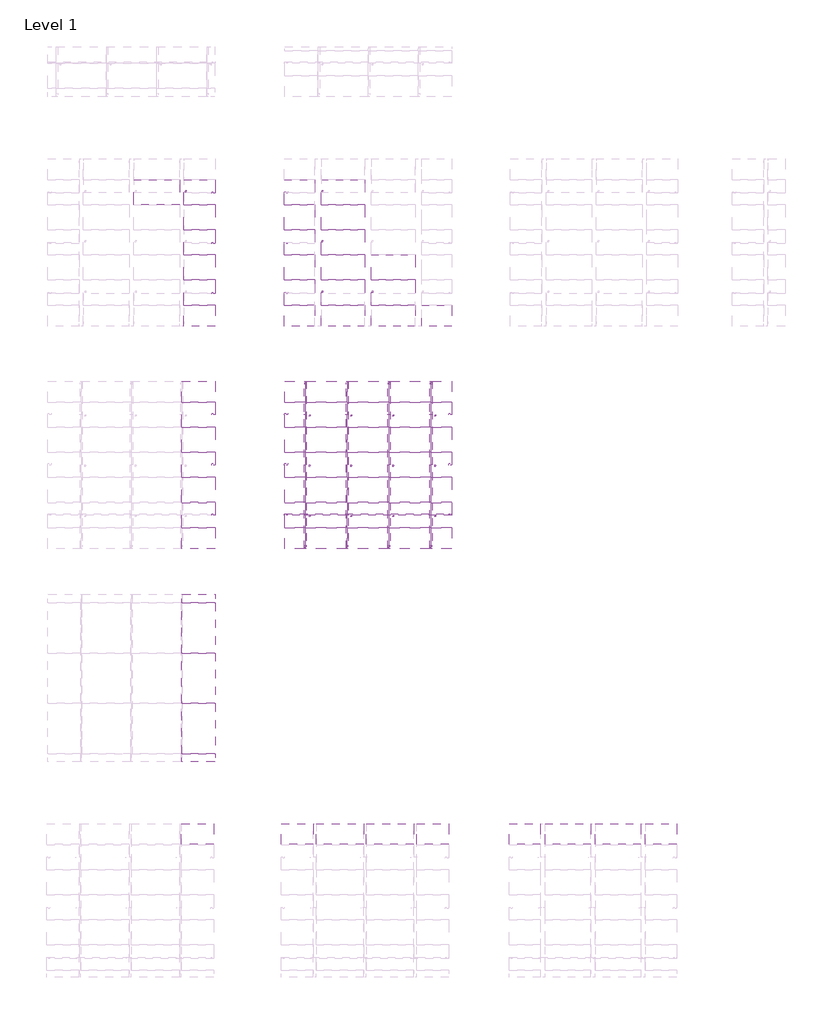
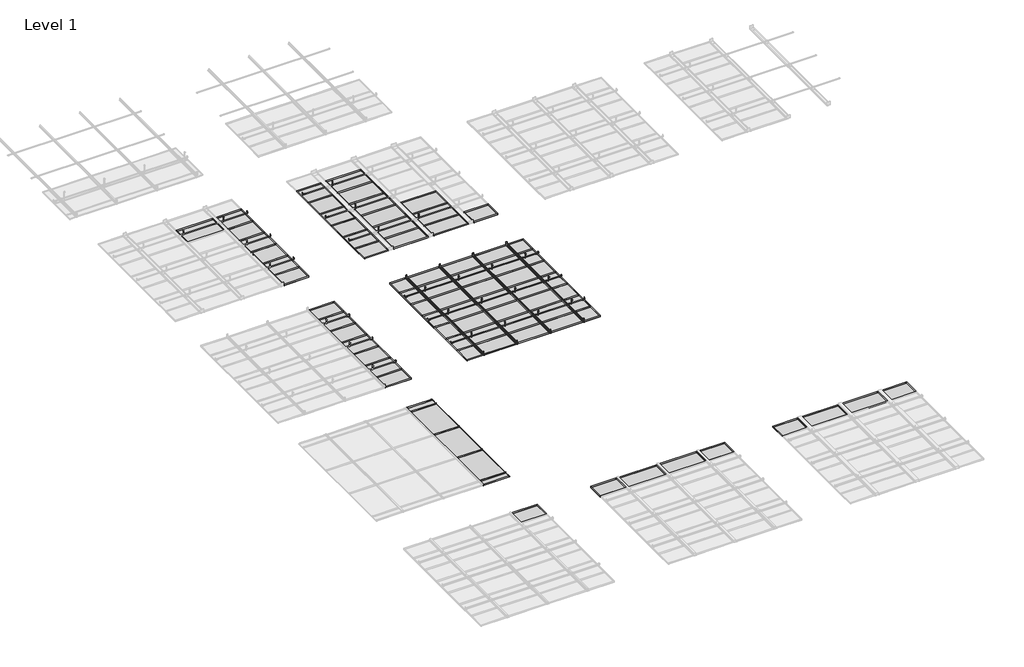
# One storey, part 7 of 32: 136 proxies.
"""IFC4 building model written with IfcOpenShell, lengths in millimetres."""

from ifc_helpers import new_model, si_unit, origin, place, context, project, spatial, transform, mapped, element, save
from components import generic_models_8e043421, generic_models_0902a4dc, generic_models_473d700c, generic_models_65a62dc2, generic_models_7d67d448, generic_models_ce491251, generic_models_44111244, generic_models_586f8c3b, generic_models_67fbcb7b, generic_models_10fcad68, generic_models_1190d022, generic_models_0d7f372a, generic_models_073f8bfa, generic_models_71d81b3c, generic_models_28f6a95c, generic_models_9e18e937, generic_models_9ccf16c1, generic_models_f7f565fa, generic_models_460f2259, generic_models_0c616ac7, generic_models_4f811f19, generic_models_ab47d6b6, generic_models_743fb40c, generic_models_d625d08b, generic_models_32ab59fa, generic_models_bfa937f8, generic_models_bec56f6c

model = new_model("IFC4")

# Units and contexts
model_context = context("Model", 3, world=origin())
ifc_project = project(units=[si_unit("LENGTHUNIT", "METRE", prefix="MILLI")], contexts=[model_context])

# Site, building, storey
site = spatial("IfcSite", under=ifc_project)
building = spatial("IfcBuilding", under=site)
storey = spatial("IfcBuildingStorey", under=building, Name="Level 1", Elevation=0.0)

# Proxies
placement = place(None, origin())
generic_models_shape = generic_models_8e043421(model_context)
element("IfcBuildingElementProxy", 1, Name="durlum_S5-100_panel : durlum_S5-100_panel_wall_length_cut", ObjectType="durlum_S5-100_panel : durlum_S5-100_panel_wall_length_cut", at=placement, inside=storey, context=model_context, shape_type="MappedRepresentation", body=[
    mapped(generic_models_shape, transform((-15764.9236977, -2048.2303881, 3800.0), x_axis=(1.0, 0.0, 0.0), y_axis=(0.0, 1.0, 0.0), z_axis=(0.0, 0.0, 1.0))),
])
element("IfcBuildingElementProxy", 2, Name="durlum_S5-100_panel : durlum_S5-100_panel_wall_length_cut", ObjectType="durlum_S5-100_panel : durlum_S5-100_panel_wall_length_cut", at=placement, inside=storey, context=model_context, shape_type="MappedRepresentation", body=[
    mapped(generic_models_shape, transform((-15764.9236977, -1448.2303881, 3800.0), x_axis=(1.0, 0.0, 0.0), y_axis=(0.0, 1.0, 0.0), z_axis=(0.0, 0.0, 1.0))),
])
element("IfcBuildingElementProxy", 3, Name="durlum_S5-100_panel : durlum_S5-100_panel_wall_length_cut", ObjectType="durlum_S5-100_panel : durlum_S5-100_panel_wall_length_cut", at=placement, inside=storey, context=model_context, shape_type="MappedRepresentation", body=[
    mapped(generic_models_shape, transform((-15764.9236977, -848.2303881, 3800.0), x_axis=(1.0, 0.0, 0.0), y_axis=(0.0, 1.0, 0.0), z_axis=(0.0, 0.0, 1.0))),
])
element("IfcBuildingElementProxy", 4, Name="durlum_S5-100_panel : durlum_S5-100_panel_wall_length_cut", ObjectType="durlum_S5-100_panel : durlum_S5-100_panel_wall_length_cut", at=placement, inside=storey, context=model_context, shape_type="MappedRepresentation", body=[
    mapped(generic_models_shape, transform((-15764.9236977, -2648.2303881, 3800.0), x_axis=(1.0, 0.0, 0.0), y_axis=(0.0, 1.0, 0.0), z_axis=(0.0, 0.0, 1.0))),
])
element("IfcBuildingElementProxy", 5, Name="durlum_S5-100_panel : durlum_S5-100_panel_wall_length_cut", ObjectType="durlum_S5-100_panel : durlum_S5-100_panel_wall_length_cut", at=placement, inside=storey, context=model_context, shape_type="MappedRepresentation", body=[
    mapped(generic_models_shape, transform((-15764.9236977, -248.2303881, 3800.0), x_axis=(1.0, 0.0, 0.0), y_axis=(0.0, 1.0, 0.0), z_axis=(0.0, 0.0, 1.0))),
])
generic_models_2_shape = generic_models_0902a4dc(model_context)
element("IfcBuildingElementProxy", 6, Name="durlum_S5-100_panel : durlum_S5-100_panel_wall_corner", ObjectType="durlum_S5-100_panel : durlum_S5-100_panel_wall_corner", at=placement, inside=storey, context=model_context, shape_type="MappedRepresentation", body=[
    mapped(generic_models_2_shape, transform((-15764.9236977, -3198.2303881, 3800.0), x_axis=(1.0, 0.0, 0.0), y_axis=(0.0, 1.0, 0.0), z_axis=(0.0, 0.0, 1.0))),
])
generic_models_3_shape = generic_models_473d700c(model_context)
element("IfcBuildingElementProxy", 7, Name="durlum_S5-100_panel : durlum_S5-100_panel", ObjectType="durlum_S5-100_panel : durlum_S5-100_panel", at=placement, inside=storey, context=model_context, shape_type="MappedRepresentation", body=[
    mapped(generic_models_3_shape, transform((-16790.1736977, -248.2303881, 3800.0), x_axis=(1.0, 0.0, 0.0), y_axis=(0.0, 1.0, 0.0), z_axis=(0.0, 0.0, 1.0))),
])
generic_models_4_shape = generic_models_65a62dc2(model_context)
element("IfcBuildingElementProxy", 8, Name="durlum_S7_panel : durlum_S7_panel_wall_length_cut", ObjectType="durlum_S7_panel : durlum_S7_panel_wall_length_cut", at=placement, inside=storey, context=model_context, shape_type="MappedRepresentation", body=[
    mapped(generic_models_4_shape, transform((-15790.1736977, -7364.8137232, 3800.0), x_axis=(1.0, 0.0, 0.0), y_axis=(0.0, 1.0, 0.0), z_axis=(0.0, 0.0, 1.0))),
])
element("IfcBuildingElementProxy", 9, Name="durlum_S7_panel : durlum_S7_panel_wall_length_cut", ObjectType="durlum_S7_panel : durlum_S7_panel_wall_length_cut", at=placement, inside=storey, context=model_context, shape_type="MappedRepresentation", body=[
    mapped(generic_models_4_shape, transform((-15790.1736977, -6764.8137232, 3800.0), x_axis=(1.0, 0.0, 0.0), y_axis=(0.0, 1.0, 0.0), z_axis=(0.0, 0.0, 1.0))),
])
element("IfcBuildingElementProxy", 10, Name="durlum_S7_panel : durlum_S7_panel_wall_length_cut", ObjectType="durlum_S7_panel : durlum_S7_panel_wall_length_cut", at=placement, inside=storey, context=model_context, shape_type="MappedRepresentation", body=[
    mapped(generic_models_4_shape, transform((-15790.1736977, -6164.8137232, 3800.0), x_axis=(1.0, 0.0, 0.0), y_axis=(0.0, 1.0, 0.0), z_axis=(0.0, 0.0, 1.0))),
])
element("IfcBuildingElementProxy", 11, Name="durlum_S7_panel : durlum_S7_panel_wall_length_cut", ObjectType="durlum_S7_panel : durlum_S7_panel_wall_length_cut", at=placement, inside=storey, context=model_context, shape_type="MappedRepresentation", body=[
    mapped(generic_models_4_shape, transform((-15790.1736977, -7964.8137232, 3800.0), x_axis=(1.0, 0.0, 0.0), y_axis=(0.0, 1.0, 0.0), z_axis=(0.0, 0.0, 1.0))),
])
element("IfcBuildingElementProxy", 12, Name="durlum_S7_panel : durlum_S7_panel_wall_length_cut", ObjectType="durlum_S7_panel : durlum_S7_panel_wall_length_cut", at=placement, inside=storey, context=model_context, shape_type="MappedRepresentation", body=[
    mapped(generic_models_4_shape, transform((-15790.1736977, -5564.8137232, 3800.0), x_axis=(1.0, 0.0, 0.0), y_axis=(0.0, 1.0, 0.0), z_axis=(0.0, 0.0, 1.0))),
])
generic_models_5_shape = generic_models_7d67d448(model_context)
element("IfcBuildingElementProxy", 13, Name="durlum_S7_panel : durlum_S7_panel_wall_corner", ObjectType="durlum_S7_panel : durlum_S7_panel_wall_corner", at=placement, inside=storey, context=model_context, shape_type="MappedRepresentation", body=[
    mapped(generic_models_5_shape, transform((-15790.1736977, -8514.8137232, 3800.0), x_axis=(1.0, 0.0, 0.0), y_axis=(0.0, 1.0, 0.0), z_axis=(0.0, 0.0, 1.0))),
])
element("IfcBuildingElementProxy", 14, Name="durlum_S7_panel : durlum_S7_panel_wall_corner", ObjectType="durlum_S7_panel : durlum_S7_panel_wall_corner", at=placement, inside=storey, context=model_context, shape_type="MappedRepresentation", body=[
    mapped(generic_models_5_shape, transform((-15790.1736977, -5014.8137232, 3800.0), x_axis=(1.0, 0.0, 0.0), y_axis=(0.0, 1.0, 0.0), z_axis=(0.0, 0.0, 1.0))),
])
generic_models_6_shape = generic_models_ce491251(model_context)
element("IfcBuildingElementProxy", 15, Name="durlum_U1300 : durlum_U1300", ObjectType="durlum_U1300 : durlum_U1300", at=placement, inside=storey, context=model_context, shape_type="MappedRepresentation", body=[
    mapped(generic_models_6_shape, transform((-12836.0747393, -1448.2303881, 3149.4124682), x_axis=(-1.0, 0.0, 0.0), y_axis=(0.0, -1.0, 0.0), z_axis=(0.0, 0.0, 1.0))),
])
element("IfcBuildingElementProxy", 16, Name="durlum_U1300 : durlum_U1300", ObjectType="durlum_U1300 : durlum_U1300", at=placement, inside=storey, context=model_context, shape_type="MappedRepresentation", body=[
    mapped(generic_models_6_shape, transform((-12836.0747393, -2648.2303881, 3149.4124682), x_axis=(-1.0, 0.0, 0.0), y_axis=(0.0, -1.0, 0.0), z_axis=(0.0, 0.0, 1.0))),
])
element("IfcBuildingElementProxy", 17, Name="durlum_U1300 : durlum_U1300", ObjectType="durlum_U1300 : durlum_U1300", at=placement, inside=storey, context=model_context, shape_type="MappedRepresentation", body=[
    mapped(generic_models_6_shape, transform((-12836.0747393, -248.2303881, 3149.4124682), x_axis=(-1.0, 0.0, 0.0), y_axis=(0.0, -1.0, 0.0), z_axis=(0.0, 0.0, 1.0))),
])
element("IfcBuildingElementProxy", 18, Name="durlum_U1300 : durlum_U1300", ObjectType="durlum_U1300 : durlum_U1300", at=placement, inside=storey, context=model_context, shape_type="MappedRepresentation", body=[
    mapped(generic_models_6_shape, transform((-16090.1736977, -248.2303881, 3149.4124682), x_axis=(-1.0, 0.0, 0.0), y_axis=(0.0, -1.0, 0.0), z_axis=(0.0, 0.0, 1.0))),
])
element("IfcBuildingElementProxy", 19, Name="durlum_U1300 : durlum_U1300", ObjectType="durlum_U1300 : durlum_U1300", at=placement, inside=storey, context=model_context, shape_type="MappedRepresentation", body=[
    mapped(generic_models_6_shape, transform((-11636.0747393, -2648.2303881, 3149.4124682), x_axis=(-1.0, 0.0, 0.0), y_axis=(0.0, -1.0, 0.0), z_axis=(0.0, 0.0, 1.0))),
])
generic_models_7_shape = generic_models_44111244(model_context)
element("IfcBuildingElementProxy", 20, Name="durlum_U1300 : durlum_U1300", ObjectType="durlum_U1300 : durlum_U1300", at=placement, inside=storey, context=model_context, shape_type="MappedRepresentation", body=[
    mapped(generic_models_7_shape, transform((-13136.0747393, -5564.8137232, 3141.4124682), x_axis=(1.0, 0.0, 0.0), y_axis=(0.0, 1.0, 0.0), z_axis=(0.0, 0.0, 1.0))),
])
element("IfcBuildingElementProxy", 21, Name="durlum_U1300 : durlum_U1300", ObjectType="durlum_U1300 : durlum_U1300", at=placement, inside=storey, context=model_context, shape_type="MappedRepresentation", body=[
    mapped(generic_models_7_shape, transform((-10136.0747393, -5564.8137232, 3141.4124682), x_axis=(1.0, 0.0, 0.0), y_axis=(0.0, 1.0, 0.0), z_axis=(0.0, 0.0, 1.0))),
])
element("IfcBuildingElementProxy", 22, Name="durlum_U1300 : durlum_U1300", ObjectType="durlum_U1300 : durlum_U1300", at=placement, inside=storey, context=model_context, shape_type="MappedRepresentation", body=[
    mapped(generic_models_7_shape, transform((-13136.0747393, -7964.8137232, 3141.4124682), x_axis=(1.0, 0.0, 0.0), y_axis=(0.0, 1.0, 0.0), z_axis=(0.0, 0.0, 1.0))),
])
element("IfcBuildingElementProxy", 23, Name="durlum_U1300 : durlum_U1300", ObjectType="durlum_U1300 : durlum_U1300", at=placement, inside=storey, context=model_context, shape_type="MappedRepresentation", body=[
    mapped(generic_models_7_shape, transform((-10136.0747393, -7964.8137232, 3141.4124682), x_axis=(1.0, 0.0, 0.0), y_axis=(0.0, 1.0, 0.0), z_axis=(0.0, 0.0, 1.0))),
])
element("IfcBuildingElementProxy", 24, Name="durlum_U1300 : durlum_U1300", ObjectType="durlum_U1300 : durlum_U1300", at=placement, inside=storey, context=model_context, shape_type="MappedRepresentation", body=[
    mapped(generic_models_7_shape, transform((-13136.0747393, -6764.8137232, 3141.4124682), x_axis=(1.0, 0.0, 0.0), y_axis=(0.0, 1.0, 0.0), z_axis=(0.0, 0.0, 1.0))),
])
element("IfcBuildingElementProxy", 25, Name="durlum_U1300 : durlum_U1300", ObjectType="durlum_U1300 : durlum_U1300", at=placement, inside=storey, context=model_context, shape_type="MappedRepresentation", body=[
    mapped(generic_models_7_shape, transform((-10136.0747393, -6764.8137232, 3141.4124682), x_axis=(1.0, 0.0, 0.0), y_axis=(0.0, 1.0, 0.0), z_axis=(0.0, 0.0, 1.0))),
])
element("IfcBuildingElementProxy", 26, Name="durlum_U1300 : durlum_U1300", ObjectType="durlum_U1300 : durlum_U1300", at=placement, inside=storey, context=model_context, shape_type="MappedRepresentation", body=[
    mapped(generic_models_7_shape, transform((-12136.0747393, -5564.8137232, 3141.4124682), x_axis=(1.0, 0.0, 0.0), y_axis=(0.0, 1.0, 0.0), z_axis=(0.0, 0.0, 1.0))),
])
element("IfcBuildingElementProxy", 27, Name="durlum_U1300 : durlum_U1300", ObjectType="durlum_U1300 : durlum_U1300", at=placement, inside=storey, context=model_context, shape_type="MappedRepresentation", body=[
    mapped(generic_models_7_shape, transform((-12136.0747393, -7964.8137232, 3141.4124682), x_axis=(1.0, 0.0, 0.0), y_axis=(0.0, 1.0, 0.0), z_axis=(0.0, 0.0, 1.0))),
])
element("IfcBuildingElementProxy", 28, Name="durlum_U1300 : durlum_U1300", ObjectType="durlum_U1300 : durlum_U1300", at=placement, inside=storey, context=model_context, shape_type="MappedRepresentation", body=[
    mapped(generic_models_7_shape, transform((-12136.0747393, -6764.8137232, 3141.4124682), x_axis=(1.0, 0.0, 0.0), y_axis=(0.0, 1.0, 0.0), z_axis=(0.0, 0.0, 1.0))),
])
element("IfcBuildingElementProxy", 29, Name="durlum_U1300 : durlum_U1300", ObjectType="durlum_U1300 : durlum_U1300", at=placement, inside=storey, context=model_context, shape_type="MappedRepresentation", body=[
    mapped(generic_models_7_shape, transform((-11136.0747393, -5564.8137232, 3141.4124682), x_axis=(1.0, 0.0, 0.0), y_axis=(0.0, 1.0, 0.0), z_axis=(0.0, 0.0, 1.0))),
])
element("IfcBuildingElementProxy", 30, Name="durlum_U1300 : durlum_U1300", ObjectType="durlum_U1300 : durlum_U1300", at=placement, inside=storey, context=model_context, shape_type="MappedRepresentation", body=[
    mapped(generic_models_7_shape, transform((-11136.0747393, -7964.8137232, 3141.4124682), x_axis=(1.0, 0.0, 0.0), y_axis=(0.0, 1.0, 0.0), z_axis=(0.0, 0.0, 1.0))),
])
element("IfcBuildingElementProxy", 31, Name="durlum_U1300 : durlum_U1300", ObjectType="durlum_U1300 : durlum_U1300", at=placement, inside=storey, context=model_context, shape_type="MappedRepresentation", body=[
    mapped(generic_models_7_shape, transform((-11136.0747393, -6764.8137232, 3141.4124682), x_axis=(1.0, 0.0, 0.0), y_axis=(0.0, 1.0, 0.0), z_axis=(0.0, 0.0, 1.0))),
])
generic_models_8_shape = generic_models_586f8c3b(model_context)
element("IfcBuildingElementProxy", 32, Name="durlum_S10H_panel : durlum_S10H_panel_wall_length_cut", ObjectType="durlum_S10H_panel : durlum_S10H_panel_wall_length_cut", at=placement, inside=storey, context=model_context, shape_type="MappedRepresentation", body=[
    mapped(generic_models_8_shape, transform((-15790.1736977, -11861.9209574, 3800.0), x_axis=(1.0, 0.0, 0.0), y_axis=(0.0, 1.0, 0.0), z_axis=(0.0, 0.0, 1.0))),
])
element("IfcBuildingElementProxy", 33, Name="durlum_S10H_panel : durlum_S10H_panel_wall_length_cut", ObjectType="durlum_S10H_panel : durlum_S10H_panel_wall_length_cut", at=placement, inside=storey, context=model_context, shape_type="MappedRepresentation", body=[
    mapped(generic_models_8_shape, transform((-15790.1736977, -13061.9209574, 3800.0), x_axis=(1.0, 0.0, 0.0), y_axis=(0.0, 1.0, 0.0), z_axis=(0.0, 0.0, 1.0))),
])
element("IfcBuildingElementProxy", 34, Name="durlum_S10H_panel : durlum_S10H_panel_wall_length_cut", ObjectType="durlum_S10H_panel : durlum_S10H_panel_wall_length_cut", at=placement, inside=storey, context=model_context, shape_type="MappedRepresentation", body=[
    mapped(generic_models_8_shape, transform((-15790.1736977, -10661.9209574, 3800.0), x_axis=(1.0, 0.0, 0.0), y_axis=(0.0, 1.0, 0.0), z_axis=(0.0, 0.0, 1.0))),
])
generic_models_9_shape = generic_models_67fbcb7b(model_context)
element("IfcBuildingElementProxy", 35, Name="durlum_S10H_panel : durlum_S10H_panel_wall_corner", ObjectType="durlum_S10H_panel : durlum_S10H_panel_wall_corner", at=placement, inside=storey, context=model_context, shape_type="MappedRepresentation", body=[
    mapped(generic_models_9_shape, transform((-15790.1736977, -13761.9209574, 3800.0), x_axis=(1.0, 0.0, 0.0), y_axis=(0.0, 1.0, 0.0), z_axis=(0.0, 0.0, 1.0))),
])
element("IfcBuildingElementProxy", 36, Name="durlum_S10H_panel : durlum_S10H_panel_wall_corner", ObjectType="durlum_S10H_panel : durlum_S10H_panel_wall_corner", at=placement, inside=storey, context=model_context, shape_type="MappedRepresentation", body=[
    mapped(generic_models_9_shape, transform((-15790.1736977, -9961.9209574, 3800.0), x_axis=(1.0, 0.0, 0.0), y_axis=(0.0, 1.0, 0.0), z_axis=(0.0, 0.0, 1.0))),
])
generic_models_10_shape = generic_models_10fcad68(model_context)
element("IfcBuildingElementProxy", 37, Name="durlum_S-OM-100_panel : durlum_S-OM-100_panel_wall_width_cut", ObjectType="durlum_S-OM-100_panel : durlum_S-OM-100_panel_wall_width_cut", at=placement, inside=storey, context=model_context, shape_type="MappedRepresentation", body=[
    mapped(generic_models_10_shape, transform((-5765.0747393, -15585.3492254, 3800.0), x_axis=(1.0, 0.0, 0.0), y_axis=(0.0, 1.0, 0.0), z_axis=(0.0, 0.0, 1.0))),
])
element("IfcBuildingElementProxy", 38, Name="durlum_S-OM-100_panel : durlum_S-OM-100_panel_wall_width_cut", ObjectType="durlum_S-OM-100_panel : durlum_S-OM-100_panel_wall_width_cut", at=placement, inside=storey, context=model_context, shape_type="MappedRepresentation", body=[
    mapped(generic_models_10_shape, transform((-6965.0747393, -15585.3492254, 3800.0), x_axis=(1.0, 0.0, 0.0), y_axis=(0.0, 1.0, 0.0), z_axis=(0.0, 0.0, 1.0))),
])
generic_models_11_shape = generic_models_1190d022(model_context)
element("IfcBuildingElementProxy", 39, Name="durlum_S-OM-63 : durlum_S-OM-63_panel_wall_width_cut", ObjectType="durlum_S-OM-63 : durlum_S-OM-63_panel_wall_width_cut", at=placement, inside=storey, context=model_context, shape_type="MappedRepresentation", body=[
    mapped(generic_models_11_shape, transform((-11212.7945168, -15585.3492254, 3800.0), x_axis=(1.0, 0.0, 0.0), y_axis=(0.0, 1.0, 0.0), z_axis=(0.0, 0.0, 1.0))),
])
element("IfcBuildingElementProxy", 40, Name="durlum_S-OM-63 : durlum_S-OM-63_panel_wall_width_cut", ObjectType="durlum_S-OM-63 : durlum_S-OM-63_panel_wall_width_cut", at=placement, inside=storey, context=model_context, shape_type="MappedRepresentation", body=[
    mapped(generic_models_11_shape, transform((-12412.7945168, -15585.3492254, 3800.0), x_axis=(1.0, 0.0, 0.0), y_axis=(0.0, 1.0, 0.0), z_axis=(0.0, 0.0, 1.0))),
])
generic_models_12_shape = generic_models_0d7f372a(model_context)
element("IfcBuildingElementProxy", 41, Name="durlum_S-OM-40 : durlum_S-OM-40_panel_wall_corner", ObjectType="durlum_S-OM-40 : durlum_S-OM-40_panel_wall_corner", at=placement, inside=storey, context=model_context, shape_type="MappedRepresentation", body=[
    mapped(generic_models_12_shape, transform((-15808.6736977, -15585.3492254, 3800.0), x_axis=(1.0, 0.0, 0.0), y_axis=(0.0, 1.0, 0.0), z_axis=(0.0, 0.0, 1.0))),
])
generic_models_13_shape = generic_models_073f8bfa(model_context)
element("IfcBuildingElementProxy", 42, Name="durlum_S-OM-63 : durlum_S-OM-63_panel_wall_corner", ObjectType="durlum_S-OM-63 : durlum_S-OM-63_panel_wall_corner", at=placement, inside=storey, context=model_context, shape_type="MappedRepresentation", body=[
    mapped(generic_models_13_shape, transform((-10196.5195168, -15585.3492254, 3800.0), x_axis=(1.0, 0.0, 0.0), y_axis=(0.0, 1.0, 0.0), z_axis=(0.0, 0.0, 1.0))),
])
element("IfcBuildingElementProxy", 43, Name="durlum_S-OM-63 : durlum_S-OM-63_panel_wall_corner", ObjectType="durlum_S-OM-63 : durlum_S-OM-63_panel_wall_corner", at=placement, inside=storey, context=model_context, shape_type="MappedRepresentation", body=[
    mapped(generic_models_13_shape, transform((-13429.0695168, -15585.3492254, 3800.0), x_axis=(1.0, 0.0, 0.0), y_axis=(0.0, 1.0, 0.0), z_axis=(0.0, 0.0, 1.0))),
])
generic_models_14_shape = generic_models_71d81b3c(model_context)
element("IfcBuildingElementProxy", 44, Name="durlum_S-OM-100_panel : durlum_S-OM-100_panel_wall_corner", ObjectType="durlum_S-OM-100_panel : durlum_S-OM-100_panel_wall_corner", at=placement, inside=storey, context=model_context, shape_type="MappedRepresentation", body=[
    mapped(generic_models_14_shape, transform((-4737.5747393, -15585.3492254, 3800.0), x_axis=(1.0, 0.0, 0.0), y_axis=(0.0, 1.0, 0.0), z_axis=(0.0, 0.0, 1.0))),
])
element("IfcBuildingElementProxy", 45, Name="durlum_S-OM-100_panel : durlum_S-OM-100_panel_wall_corner", ObjectType="durlum_S-OM-100_panel : durlum_S-OM-100_panel_wall_corner", at=placement, inside=storey, context=model_context, shape_type="MappedRepresentation", body=[
    mapped(generic_models_14_shape, transform((-7992.5747393, -15585.3492254, 3800.0), x_axis=(1.0, 0.0, 0.0), y_axis=(0.0, 1.0, 0.0), z_axis=(0.0, 0.0, 1.0))),
])
generic_models_15_shape = generic_models_28f6a95c(model_context)
element("IfcBuildingElementProxy", 46, Name="durlum_U1042 : durlum_U1042", ObjectType="durlum_U1042 : durlum_U1042", at=placement, inside=storey, context=model_context, shape_type="MappedRepresentation", body=[
    mapped(generic_models_15_shape, transform((-13736.0747393, -263.2303881, 3906.0), x_axis=(0.0, -1.0, 0.0), y_axis=(1.0, 0.0, 0.0), z_axis=(0.0, 0.0, 1.0))),
])
element("IfcBuildingElementProxy", 47, Name="durlum_U1042 : durlum_U1042", ObjectType="durlum_U1042 : durlum_U1042", at=placement, inside=storey, context=model_context, shape_type="MappedRepresentation", body=[
    mapped(generic_models_15_shape, transform((-13736.0747393, -1463.2303881, 3906.0), x_axis=(0.0, -1.0, 0.0), y_axis=(1.0, 0.0, 0.0), z_axis=(0.0, 0.0, 1.0))),
])
element("IfcBuildingElementProxy", 48, Name="durlum_U1042 : durlum_U1042", ObjectType="durlum_U1042 : durlum_U1042", at=placement, inside=storey, context=model_context, shape_type="MappedRepresentation", body=[
    mapped(generic_models_15_shape, transform((-13736.0747393, -2663.2303881, 3906.0), x_axis=(0.0, -1.0, 0.0), y_axis=(1.0, 0.0, 0.0), z_axis=(0.0, 0.0, 1.0))),
])
element("IfcBuildingElementProxy", 49, Name="durlum_U1042 : durlum_U1042", ObjectType="durlum_U1042 : durlum_U1042", at=placement, inside=storey, context=model_context, shape_type="MappedRepresentation", body=[
    mapped(generic_models_15_shape, transform((-13736.0747393, -7950.8137232, 3861.0), x_axis=(0.0, -1.0, 0.0), y_axis=(1.0, 0.0, 0.0), z_axis=(0.0, 0.0, 1.0))),
])
element("IfcBuildingElementProxy", 50, Name="durlum_U1042 : durlum_U1042", ObjectType="durlum_U1042 : durlum_U1042", at=placement, inside=storey, context=model_context, shape_type="MappedRepresentation", body=[
    mapped(generic_models_15_shape, transform((-13736.0747393, -6750.8137232, 3861.0), x_axis=(0.0, -1.0, 0.0), y_axis=(1.0, 0.0, 0.0), z_axis=(0.0, 0.0, 1.0))),
])
element("IfcBuildingElementProxy", 51, Name="durlum_U1042 : durlum_U1042", ObjectType="durlum_U1042 : durlum_U1042", at=placement, inside=storey, context=model_context, shape_type="MappedRepresentation", body=[
    mapped(generic_models_15_shape, transform((-13736.0747393, -5550.8137232, 3861.0), x_axis=(0.0, -1.0, 0.0), y_axis=(1.0, 0.0, 0.0), z_axis=(0.0, 0.0, 1.0))),
])
generic_models_16_shape = generic_models_9e18e937(model_context)
element("IfcBuildingElementProxy", 52, Name="durlum_U1042 : durlum_U1042", ObjectType="durlum_U1042 : durlum_U1042", at=placement, inside=storey, context=model_context, shape_type="MappedRepresentation", body=[
    mapped(generic_models_16_shape, transform((-15390.1736977, -1463.2303881, 3906.0), x_axis=(0.0, -1.0, 0.0), y_axis=(1.0, 0.0, 0.0), z_axis=(0.0, 0.0, 1.0))),
])
element("IfcBuildingElementProxy", 53, Name="durlum_U1042 : durlum_U1042", ObjectType="durlum_U1042 : durlum_U1042", at=placement, inside=storey, context=model_context, shape_type="MappedRepresentation", body=[
    mapped(generic_models_16_shape, transform((-15390.1736977, -2663.2303881, 3906.0), x_axis=(0.0, -1.0, 0.0), y_axis=(1.0, 0.0, 0.0), z_axis=(0.0, 0.0, 1.0))),
])
element("IfcBuildingElementProxy", 54, Name="durlum_U1042 : durlum_U1042", ObjectType="durlum_U1042 : durlum_U1042", at=placement, inside=storey, context=model_context, shape_type="MappedRepresentation", body=[
    mapped(generic_models_16_shape, transform((-15390.1736977, -263.2303881, 3906.0), x_axis=(0.0, -1.0, 0.0), y_axis=(1.0, 0.0, 0.0), z_axis=(0.0, 0.0, 1.0))),
])
element("IfcBuildingElementProxy", 55, Name="durlum_U1042 : durlum_U1042", ObjectType="durlum_U1042 : durlum_U1042", at=placement, inside=storey, context=model_context, shape_type="MappedRepresentation", body=[
    mapped(generic_models_16_shape, transform((-15390.1736977, -5550.8137232, 3861.0), x_axis=(0.0, -1.0, 0.0), y_axis=(1.0, 0.0, 0.0), z_axis=(0.0, 0.0, 1.0))),
])
element("IfcBuildingElementProxy", 56, Name="durlum_U1042 : durlum_U1042", ObjectType="durlum_U1042 : durlum_U1042", at=placement, inside=storey, context=model_context, shape_type="MappedRepresentation", body=[
    mapped(generic_models_16_shape, transform((-13236.0747393, -4764.8137232, 3863.0), x_axis=(1.0, 0.0, 0.0), y_axis=(0.0, 1.0, 0.0), z_axis=(0.0, 0.0, 1.0))),
])
element("IfcBuildingElementProxy", 57, Name="durlum_U1042 : durlum_U1042", ObjectType="durlum_U1042 : durlum_U1042", at=placement, inside=storey, context=model_context, shape_type="MappedRepresentation", body=[
    mapped(generic_models_16_shape, transform((-9736.0747393, -5550.8137232, 3861.0), x_axis=(0.0, -1.0, 0.0), y_axis=(1.0, 0.0, 0.0), z_axis=(0.0, 0.0, 1.0))),
])
element("IfcBuildingElementProxy", 58, Name="durlum_U1042 : durlum_U1042", ObjectType="durlum_U1042 : durlum_U1042", at=placement, inside=storey, context=model_context, shape_type="MappedRepresentation", body=[
    mapped(generic_models_16_shape, transform((-10236.0747393, -4764.8137232, 3863.0), x_axis=(1.0, 0.0, 0.0), y_axis=(0.0, 1.0, 0.0), z_axis=(0.0, 0.0, 1.0))),
])
element("IfcBuildingElementProxy", 59, Name="durlum_U1042 : durlum_U1042", ObjectType="durlum_U1042 : durlum_U1042", at=placement, inside=storey, context=model_context, shape_type="MappedRepresentation", body=[
    mapped(generic_models_16_shape, transform((-10236.0747393, -8764.8137232, 3863.0), x_axis=(-1.0, 0.0, 0.0), y_axis=(0.0, -1.0, 0.0), z_axis=(0.0, 0.0, 1.0))),
])
element("IfcBuildingElementProxy", 60, Name="durlum_U1042 : durlum_U1042", ObjectType="durlum_U1042 : durlum_U1042", at=placement, inside=storey, context=model_context, shape_type="MappedRepresentation", body=[
    mapped(generic_models_16_shape, transform((-9736.0747393, -7950.8137232, 3861.0), x_axis=(0.0, -1.0, 0.0), y_axis=(1.0, 0.0, 0.0), z_axis=(0.0, 0.0, 1.0))),
])
element("IfcBuildingElementProxy", 61, Name="durlum_U1042 : durlum_U1042", ObjectType="durlum_U1042 : durlum_U1042", at=placement, inside=storey, context=model_context, shape_type="MappedRepresentation", body=[
    mapped(generic_models_16_shape, transform((-15390.1736977, -7950.8137232, 3861.0), x_axis=(0.0, -1.0, 0.0), y_axis=(1.0, 0.0, 0.0), z_axis=(0.0, 0.0, 1.0))),
])
element("IfcBuildingElementProxy", 62, Name="durlum_U1042 : durlum_U1042", ObjectType="durlum_U1042 : durlum_U1042", at=placement, inside=storey, context=model_context, shape_type="MappedRepresentation", body=[
    mapped(generic_models_16_shape, transform((-15390.1736977, -6750.8137232, 3861.0), x_axis=(0.0, -1.0, 0.0), y_axis=(1.0, 0.0, 0.0), z_axis=(0.0, 0.0, 1.0))),
])
element("IfcBuildingElementProxy", 63, Name="durlum_U1042 : durlum_U1042", ObjectType="durlum_U1042 : durlum_U1042", at=placement, inside=storey, context=model_context, shape_type="MappedRepresentation", body=[
    mapped(generic_models_16_shape, transform((-13236.0747393, -8764.8137232, 3863.0), x_axis=(-1.0, 0.0, 0.0), y_axis=(0.0, -1.0, 0.0), z_axis=(0.0, 0.0, 1.0))),
])
element("IfcBuildingElementProxy", 64, Name="durlum_U1042 : durlum_U1042", ObjectType="durlum_U1042 : durlum_U1042", at=placement, inside=storey, context=model_context, shape_type="MappedRepresentation", body=[
    mapped(generic_models_16_shape, transform((-9736.0747393, -6750.8137232, 3861.0), x_axis=(0.0, -1.0, 0.0), y_axis=(1.0, 0.0, 0.0), z_axis=(0.0, 0.0, 1.0))),
])
element("IfcBuildingElementProxy", 65, Name="durlum_U1042 : durlum_U1042", ObjectType="durlum_U1042 : durlum_U1042", at=placement, inside=storey, context=model_context, shape_type="MappedRepresentation", body=[
    mapped(generic_models_16_shape, transform((-11236.0747393, -4764.8137232, 3863.0), x_axis=(1.0, 0.0, 0.0), y_axis=(0.0, 1.0, 0.0), z_axis=(0.0, 0.0, 1.0))),
])
element("IfcBuildingElementProxy", 66, Name="durlum_U1042 : durlum_U1042", ObjectType="durlum_U1042 : durlum_U1042", at=placement, inside=storey, context=model_context, shape_type="MappedRepresentation", body=[
    mapped(generic_models_16_shape, transform((-11236.0747393, -8764.8137232, 3863.0), x_axis=(-1.0, 0.0, 0.0), y_axis=(0.0, -1.0, 0.0), z_axis=(0.0, 0.0, 1.0))),
])
element("IfcBuildingElementProxy", 67, Name="durlum_U1042 : durlum_U1042", ObjectType="durlum_U1042 : durlum_U1042", at=placement, inside=storey, context=model_context, shape_type="MappedRepresentation", body=[
    mapped(generic_models_16_shape, transform((-12236.0747393, -4764.8137232, 3863.0), x_axis=(1.0, 0.0, 0.0), y_axis=(0.0, 1.0, 0.0), z_axis=(0.0, 0.0, 1.0))),
])
element("IfcBuildingElementProxy", 68, Name="durlum_U1042 : durlum_U1042", ObjectType="durlum_U1042 : durlum_U1042", at=placement, inside=storey, context=model_context, shape_type="MappedRepresentation", body=[
    mapped(generic_models_16_shape, transform((-12236.0747393, -8764.8137232, 3863.0), x_axis=(-1.0, 0.0, 0.0), y_axis=(0.0, -1.0, 0.0), z_axis=(0.0, 0.0, 1.0))),
])
generic_models_17_shape = generic_models_9ccf16c1(model_context)
element("IfcBuildingElementProxy", 69, Name="durlum_U1093V : durlum_U1093V", ObjectType="durlum_U1093V : durlum_U1093V", at=placement, inside=storey, context=model_context, shape_type="MappedRepresentation", body=[
    mapped(generic_models_17_shape, transform((-10236.0747393, -5566.3137232, 3853.0), x_axis=(-1.0, 0.0, 0.0), y_axis=(0.0, -1.0, 0.0), z_axis=(0.0, 0.0, 1.0))),
])
element("IfcBuildingElementProxy", 70, Name="durlum_U1093V : durlum_U1093V", ObjectType="durlum_U1093V : durlum_U1093V", at=placement, inside=storey, context=model_context, shape_type="MappedRepresentation", body=[
    mapped(generic_models_17_shape, transform((-13236.0747393, -7966.3137232, 3853.0), x_axis=(-1.0, 0.0, 0.0), y_axis=(0.0, -1.0, 0.0), z_axis=(0.0, 0.0, 1.0))),
])
element("IfcBuildingElementProxy", 71, Name="durlum_U1093V : durlum_U1093V", ObjectType="durlum_U1093V : durlum_U1093V", at=placement, inside=storey, context=model_context, shape_type="MappedRepresentation", body=[
    mapped(generic_models_17_shape, transform((-13236.0747393, -6766.3137232, 3853.0), x_axis=(-1.0, 0.0, 0.0), y_axis=(0.0, -1.0, 0.0), z_axis=(0.0, 0.0, 1.0))),
])
element("IfcBuildingElementProxy", 72, Name="durlum_U1093V : durlum_U1093V", ObjectType="durlum_U1093V : durlum_U1093V", at=placement, inside=storey, context=model_context, shape_type="MappedRepresentation", body=[
    mapped(generic_models_17_shape, transform((-13236.0747393, -5566.3137232, 3853.0), x_axis=(-1.0, 0.0, 0.0), y_axis=(0.0, -1.0, 0.0), z_axis=(0.0, 0.0, 1.0))),
])
element("IfcBuildingElementProxy", 73, Name="durlum_U1093V : durlum_U1093V", ObjectType="durlum_U1093V : durlum_U1093V", at=placement, inside=storey, context=model_context, shape_type="MappedRepresentation", body=[
    mapped(generic_models_17_shape, transform((-10236.0747393, -7966.3137232, 3853.0), x_axis=(-1.0, 0.0, 0.0), y_axis=(0.0, -1.0, 0.0), z_axis=(0.0, 0.0, 1.0))),
])
element("IfcBuildingElementProxy", 74, Name="durlum_U1093V : durlum_U1093V", ObjectType="durlum_U1093V : durlum_U1093V", at=placement, inside=storey, context=model_context, shape_type="MappedRepresentation", body=[
    mapped(generic_models_17_shape, transform((-10236.0747393, -6766.3137232, 3853.0), x_axis=(-1.0, 0.0, 0.0), y_axis=(0.0, -1.0, 0.0), z_axis=(0.0, 0.0, 1.0))),
])
element("IfcBuildingElementProxy", 75, Name="durlum_U1093V : durlum_U1093V", ObjectType="durlum_U1093V : durlum_U1093V", at=placement, inside=storey, context=model_context, shape_type="MappedRepresentation", body=[
    mapped(generic_models_17_shape, transform((-11236.0747393, -6766.3137232, 3853.0), x_axis=(-1.0, 0.0, 0.0), y_axis=(0.0, -1.0, 0.0), z_axis=(0.0, 0.0, 1.0))),
])
element("IfcBuildingElementProxy", 76, Name="durlum_U1093V : durlum_U1093V", ObjectType="durlum_U1093V : durlum_U1093V", at=placement, inside=storey, context=model_context, shape_type="MappedRepresentation", body=[
    mapped(generic_models_17_shape, transform((-11236.0747393, -5566.3137232, 3853.0), x_axis=(-1.0, 0.0, 0.0), y_axis=(0.0, -1.0, 0.0), z_axis=(0.0, 0.0, 1.0))),
])
element("IfcBuildingElementProxy", 77, Name="durlum_U1093V : durlum_U1093V", ObjectType="durlum_U1093V : durlum_U1093V", at=placement, inside=storey, context=model_context, shape_type="MappedRepresentation", body=[
    mapped(generic_models_17_shape, transform((-11236.0747393, -7966.3137232, 3853.0), x_axis=(-1.0, 0.0, 0.0), y_axis=(0.0, -1.0, 0.0), z_axis=(0.0, 0.0, 1.0))),
])
element("IfcBuildingElementProxy", 78, Name="durlum_U1093V : durlum_U1093V", ObjectType="durlum_U1093V : durlum_U1093V", at=placement, inside=storey, context=model_context, shape_type="MappedRepresentation", body=[
    mapped(generic_models_17_shape, transform((-12236.0747393, -5566.3137232, 3853.0), x_axis=(-1.0, 0.0, 0.0), y_axis=(0.0, -1.0, 0.0), z_axis=(0.0, 0.0, 1.0))),
])
element("IfcBuildingElementProxy", 79, Name="durlum_U1093V : durlum_U1093V", ObjectType="durlum_U1093V : durlum_U1093V", at=placement, inside=storey, context=model_context, shape_type="MappedRepresentation", body=[
    mapped(generic_models_17_shape, transform((-12236.0747393, -7966.3137232, 3853.0), x_axis=(-1.0, 0.0, 0.0), y_axis=(0.0, -1.0, 0.0), z_axis=(0.0, 0.0, 1.0))),
])
element("IfcBuildingElementProxy", 80, Name="durlum_U1093V : durlum_U1093V", ObjectType="durlum_U1093V : durlum_U1093V", at=placement, inside=storey, context=model_context, shape_type="MappedRepresentation", body=[
    mapped(generic_models_17_shape, transform((-12236.0747393, -6766.3137232, 3853.0), x_axis=(-1.0, 0.0, 0.0), y_axis=(0.0, -1.0, 0.0), z_axis=(0.0, 0.0, 1.0))),
])
generic_models_18_shape = generic_models_f7f565fa(model_context)
element("IfcBuildingElementProxy", 81, Name="durlum_S5-100_panel : durlum_S5-100_panel_wall_width_cut", ObjectType="durlum_S5-100_panel : durlum_S5-100_panel_wall_width_cut", at=placement, inside=storey, context=model_context, shape_type="MappedRepresentation", body=[
    mapped(generic_models_18_shape, transform((-11136.0747393, -3198.2303881, 3800.0), x_axis=(1.0, 0.0, 0.0), y_axis=(0.0, 1.0, 0.0), z_axis=(0.0, 0.0, 1.0))),
])
element("IfcBuildingElementProxy", 82, Name="durlum_S5-100_panel : durlum_S5-100_panel_wall_width_cut", ObjectType="durlum_S5-100_panel : durlum_S5-100_panel_wall_width_cut", at=placement, inside=storey, context=model_context, shape_type="MappedRepresentation", body=[
    mapped(generic_models_18_shape, transform((-12336.0747393, -3198.2303881, 3800.0), x_axis=(1.0, 0.0, 0.0), y_axis=(0.0, 1.0, 0.0), z_axis=(0.0, 0.0, 1.0))),
])
generic_models_19_shape = generic_models_460f2259(model_context)
element("IfcBuildingElementProxy", 83, Name="durlum_S5-100_panel : durlum_S5-100_panel", ObjectType="durlum_S5-100_panel : durlum_S5-100_panel", at=placement, inside=storey, context=model_context, shape_type="MappedRepresentation", body=[
    mapped(generic_models_19_shape, transform((-12336.0747393, -1448.2303881, 3800.0), x_axis=(1.0, 0.0, 0.0), y_axis=(0.0, 1.0, 0.0), z_axis=(0.0, 0.0, 1.0))),
])
element("IfcBuildingElementProxy", 84, Name="durlum_S5-100_panel : durlum_S5-100_panel", ObjectType="durlum_S5-100_panel : durlum_S5-100_panel", at=placement, inside=storey, context=model_context, shape_type="MappedRepresentation", body=[
    mapped(generic_models_19_shape, transform((-12336.0747393, -848.2303881, 3800.0), x_axis=(1.0, 0.0, 0.0), y_axis=(0.0, 1.0, 0.0), z_axis=(0.0, 0.0, 1.0))),
])
element("IfcBuildingElementProxy", 85, Name="durlum_S5-100_panel : durlum_S5-100_panel", ObjectType="durlum_S5-100_panel : durlum_S5-100_panel", at=placement, inside=storey, context=model_context, shape_type="MappedRepresentation", body=[
    mapped(generic_models_19_shape, transform((-12336.0747393, -2648.2303881, 3800.0), x_axis=(1.0, 0.0, 0.0), y_axis=(0.0, 1.0, 0.0), z_axis=(0.0, 0.0, 1.0))),
])
element("IfcBuildingElementProxy", 86, Name="durlum_S5-100_panel : durlum_S5-100_panel", ObjectType="durlum_S5-100_panel : durlum_S5-100_panel", at=placement, inside=storey, context=model_context, shape_type="MappedRepresentation", body=[
    mapped(generic_models_19_shape, transform((-11136.0747393, -2648.2303881, 3800.0), x_axis=(1.0, 0.0, 0.0), y_axis=(0.0, 1.0, 0.0), z_axis=(0.0, 0.0, 1.0))),
])
element("IfcBuildingElementProxy", 87, Name="durlum_S5-100_panel : durlum_S5-100_panel", ObjectType="durlum_S5-100_panel : durlum_S5-100_panel", at=placement, inside=storey, context=model_context, shape_type="MappedRepresentation", body=[
    mapped(generic_models_19_shape, transform((-12336.0747393, -248.2303881, 3800.0), x_axis=(1.0, 0.0, 0.0), y_axis=(0.0, 1.0, 0.0), z_axis=(0.0, 0.0, 1.0))),
])
element("IfcBuildingElementProxy", 88, Name="durlum_S5-100_panel : durlum_S5-100_panel", ObjectType="durlum_S5-100_panel : durlum_S5-100_panel", at=placement, inside=storey, context=model_context, shape_type="MappedRepresentation", body=[
    mapped(generic_models_19_shape, transform((-12336.0747393, -2048.2303881, 3800.0), x_axis=(1.0, 0.0, 0.0), y_axis=(0.0, 1.0, 0.0), z_axis=(0.0, 0.0, 1.0))),
])
element("IfcBuildingElementProxy", 89, Name="durlum_S5-100_panel : durlum_S5-100_panel", ObjectType="durlum_S5-100_panel : durlum_S5-100_panel", at=placement, inside=storey, context=model_context, shape_type="MappedRepresentation", body=[
    mapped(generic_models_19_shape, transform((-11136.0747393, -2048.2303881, 3800.0), x_axis=(1.0, 0.0, 0.0), y_axis=(0.0, 1.0, 0.0), z_axis=(0.0, 0.0, 1.0))),
])
generic_models_20_shape = generic_models_0c616ac7(model_context)
element("IfcBuildingElementProxy", 90, Name="durlum_S7KS : durlum_S7KS", ObjectType="durlum_S7KS : durlum_S7KS", at=placement, inside=storey, context=model_context, shape_type="MappedRepresentation", body=[
    mapped(generic_models_20_shape, transform((-11736.0747393, -6764.8137232, 1700.0), x_axis=(1.0, 0.0, 0.0), y_axis=(0.0, 1.0, 0.0), z_axis=(0.0, 0.0, 1.0))),
])
generic_models_21_shape = generic_models_4f811f19(model_context)
element("IfcBuildingElementProxy", 91, Name="durlum_S5-100_panel : durlum_S5-100_panel_wall_length_cut", ObjectType="durlum_S5-100_panel : durlum_S5-100_panel_wall_length_cut", at=placement, inside=storey, context=model_context, shape_type="MappedRepresentation", body=[
    mapped(generic_models_21_shape, transform((-13373.8247393, -2048.2303881, 3800.0), x_axis=(1.0, 0.0, 0.0), y_axis=(0.0, 1.0, 0.0), z_axis=(0.0, 0.0, 1.0))),
])
element("IfcBuildingElementProxy", 92, Name="durlum_S5-100_panel : durlum_S5-100_panel_wall_length_cut", ObjectType="durlum_S5-100_panel : durlum_S5-100_panel_wall_length_cut", at=placement, inside=storey, context=model_context, shape_type="MappedRepresentation", body=[
    mapped(generic_models_21_shape, transform((-13373.8247393, -1448.2303881, 3800.0), x_axis=(1.0, 0.0, 0.0), y_axis=(0.0, 1.0, 0.0), z_axis=(0.0, 0.0, 1.0))),
])
element("IfcBuildingElementProxy", 93, Name="durlum_S5-100_panel : durlum_S5-100_panel_wall_length_cut", ObjectType="durlum_S5-100_panel : durlum_S5-100_panel_wall_length_cut", at=placement, inside=storey, context=model_context, shape_type="MappedRepresentation", body=[
    mapped(generic_models_21_shape, transform((-13373.8247393, -848.2303881, 3800.0), x_axis=(1.0, 0.0, 0.0), y_axis=(0.0, 1.0, 0.0), z_axis=(0.0, 0.0, 1.0))),
])
element("IfcBuildingElementProxy", 94, Name="durlum_S5-100_panel : durlum_S5-100_panel_wall_length_cut", ObjectType="durlum_S5-100_panel : durlum_S5-100_panel_wall_length_cut", at=placement, inside=storey, context=model_context, shape_type="MappedRepresentation", body=[
    mapped(generic_models_21_shape, transform((-13373.8247393, -2648.2303881, 3800.0), x_axis=(1.0, 0.0, 0.0), y_axis=(0.0, 1.0, 0.0), z_axis=(0.0, 0.0, 1.0))),
])
element("IfcBuildingElementProxy", 95, Name="durlum_S5-100_panel : durlum_S5-100_panel_wall_length_cut", ObjectType="durlum_S5-100_panel : durlum_S5-100_panel_wall_length_cut", at=placement, inside=storey, context=model_context, shape_type="MappedRepresentation", body=[
    mapped(generic_models_21_shape, transform((-13373.8247393, -248.2303881, 3800.0), x_axis=(1.0, 0.0, 0.0), y_axis=(0.0, 1.0, 0.0), z_axis=(0.0, 0.0, 1.0))),
])
generic_models_22_shape = generic_models_ab47d6b6(model_context)
element("IfcBuildingElementProxy", 96, Name="durlum_S5-100_panel : durlum_S5-100_panel_wall_corner", ObjectType="durlum_S5-100_panel : durlum_S5-100_panel_wall_corner", at=placement, inside=storey, context=model_context, shape_type="MappedRepresentation", body=[
    mapped(generic_models_22_shape, transform((-13373.8247393, -3198.2303881, 3800.0), x_axis=(1.0, 0.0, 0.0), y_axis=(0.0, 1.0, 0.0), z_axis=(0.0, 0.0, 1.0))),
])
element("IfcBuildingElementProxy", 97, Name="durlum_S5-100_panel : durlum_S5-100_panel_wall_corner", ObjectType="durlum_S5-100_panel : durlum_S5-100_panel_wall_corner", at=placement, inside=storey, context=model_context, shape_type="MappedRepresentation", body=[
    mapped(generic_models_22_shape, transform((-10098.3247393, -3198.2303881, 3800.0), x_axis=(1.0, 0.0, 0.0), y_axis=(0.0, 1.0, 0.0), z_axis=(0.0, 0.0, 1.0))),
])
generic_models_23_shape = generic_models_743fb40c(model_context)
element("IfcBuildingElementProxy", 98, Name="durlum_W2053 : durlum_W2053", ObjectType="durlum_W2053 : durlum_W2053", at=placement, inside=storey, context=model_context, shape_type="MappedRepresentation", body=[
    mapped(generic_models_23_shape, transform((-13236.0747393, -6764.8137232, 3823.0), x_axis=(0.0, -1.0, 0.0), y_axis=(1.0, 0.0, 0.0), z_axis=(0.0, 0.0, 1.0))),
])
element("IfcBuildingElementProxy", 99, Name="durlum_W2053 : durlum_W2053", ObjectType="durlum_W2053 : durlum_W2053", at=placement, inside=storey, context=model_context, shape_type="MappedRepresentation", body=[
    mapped(generic_models_23_shape, transform((-10236.0747393, -6764.8137232, 3823.0), x_axis=(0.0, -1.0, 0.0), y_axis=(1.0, 0.0, 0.0), z_axis=(0.0, 0.0, 1.0))),
])
element("IfcBuildingElementProxy", 100, Name="durlum_W2053 : durlum_W2053", ObjectType="durlum_W2053 : durlum_W2053", at=placement, inside=storey, context=model_context, shape_type="MappedRepresentation", body=[
    mapped(generic_models_23_shape, transform((-11236.0747393, -6764.8137232, 3823.0), x_axis=(0.0, -1.0, 0.0), y_axis=(1.0, 0.0, 0.0), z_axis=(0.0, 0.0, 1.0))),
])
element("IfcBuildingElementProxy", 101, Name="durlum_W2053 : durlum_W2053", ObjectType="durlum_W2053 : durlum_W2053", at=placement, inside=storey, context=model_context, shape_type="MappedRepresentation", body=[
    mapped(generic_models_23_shape, transform((-12236.0747393, -6764.8137232, 3823.0), x_axis=(0.0, -1.0, 0.0), y_axis=(1.0, 0.0, 0.0), z_axis=(0.0, 0.0, 1.0))),
])
generic_models_24_shape = generic_models_d625d08b(model_context)
element("IfcBuildingElementProxy", 102, Name="durlum_S7KS_panel : durlum_S7KS_panel", ObjectType="durlum_S7KS_panel : durlum_S7KS_panel", at=placement, inside=storey, context=model_context, shape_type="MappedRepresentation", body=[
    mapped(generic_models_24_shape, transform((-12736.0747393, -6764.8137232, 3800.0), x_axis=(1.0, 0.0, 0.0), y_axis=(0.0, 1.0, 0.0), z_axis=(0.0, 0.0, 1.0))),
])
element("IfcBuildingElementProxy", 103, Name="durlum_S7KS_panel : durlum_S7KS_panel", ObjectType="durlum_S7KS_panel : durlum_S7KS_panel", at=placement, inside=storey, context=model_context, shape_type="MappedRepresentation", body=[
    mapped(generic_models_24_shape, transform((-10736.0747393, -6764.8137232, 3800.0), x_axis=(1.0, 0.0, 0.0), y_axis=(0.0, 1.0, 0.0), z_axis=(0.0, 0.0, 1.0))),
])
element("IfcBuildingElementProxy", 104, Name="durlum_S7KS_panel : durlum_S7KS_panel", ObjectType="durlum_S7KS_panel : durlum_S7KS_panel", at=placement, inside=storey, context=model_context, shape_type="MappedRepresentation", body=[
    mapped(generic_models_24_shape, transform((-12736.0747393, -6164.8137232, 3800.0), x_axis=(1.0, 0.0, 0.0), y_axis=(0.0, 1.0, 0.0), z_axis=(0.0, 0.0, 1.0))),
])
element("IfcBuildingElementProxy", 105, Name="durlum_S7KS_panel : durlum_S7KS_panel", ObjectType="durlum_S7KS_panel : durlum_S7KS_panel", at=placement, inside=storey, context=model_context, shape_type="MappedRepresentation", body=[
    mapped(generic_models_24_shape, transform((-10736.0747393, -6164.8137232, 3800.0), x_axis=(1.0, 0.0, 0.0), y_axis=(0.0, 1.0, 0.0), z_axis=(0.0, 0.0, 1.0))),
])
element("IfcBuildingElementProxy", 106, Name="durlum_S7KS_panel : durlum_S7KS_panel", ObjectType="durlum_S7KS_panel : durlum_S7KS_panel", at=placement, inside=storey, context=model_context, shape_type="MappedRepresentation", body=[
    mapped(generic_models_24_shape, transform((-12736.0747393, -7964.8137232, 3800.0), x_axis=(1.0, 0.0, 0.0), y_axis=(0.0, 1.0, 0.0), z_axis=(0.0, 0.0, 1.0))),
])
element("IfcBuildingElementProxy", 107, Name="durlum_S7KS_panel : durlum_S7KS_panel", ObjectType="durlum_S7KS_panel : durlum_S7KS_panel", at=placement, inside=storey, context=model_context, shape_type="MappedRepresentation", body=[
    mapped(generic_models_24_shape, transform((-10736.0747393, -7964.8137232, 3800.0), x_axis=(1.0, 0.0, 0.0), y_axis=(0.0, 1.0, 0.0), z_axis=(0.0, 0.0, 1.0))),
])
element("IfcBuildingElementProxy", 108, Name="durlum_S7KS_panel : durlum_S7KS_panel", ObjectType="durlum_S7KS_panel : durlum_S7KS_panel", at=placement, inside=storey, context=model_context, shape_type="MappedRepresentation", body=[
    mapped(generic_models_24_shape, transform((-12736.0747393, -5564.8137232, 3800.0), x_axis=(1.0, 0.0, 0.0), y_axis=(0.0, 1.0, 0.0), z_axis=(0.0, 0.0, 1.0))),
])
element("IfcBuildingElementProxy", 109, Name="durlum_S7KS_panel : durlum_S7KS_panel", ObjectType="durlum_S7KS_panel : durlum_S7KS_panel", at=placement, inside=storey, context=model_context, shape_type="MappedRepresentation", body=[
    mapped(generic_models_24_shape, transform((-10736.0747393, -5564.8137232, 3800.0), x_axis=(1.0, 0.0, 0.0), y_axis=(0.0, 1.0, 0.0), z_axis=(0.0, 0.0, 1.0))),
])
element("IfcBuildingElementProxy", 110, Name="durlum_S7KS_panel : durlum_S7KS_panel", ObjectType="durlum_S7KS_panel : durlum_S7KS_panel", at=placement, inside=storey, context=model_context, shape_type="MappedRepresentation", body=[
    mapped(generic_models_24_shape, transform((-12736.0747393, -7364.8137232, 3800.0), x_axis=(1.0, 0.0, 0.0), y_axis=(0.0, 1.0, 0.0), z_axis=(0.0, 0.0, 1.0))),
])
element("IfcBuildingElementProxy", 111, Name="durlum_S7KS_panel : durlum_S7KS_panel", ObjectType="durlum_S7KS_panel : durlum_S7KS_panel", at=placement, inside=storey, context=model_context, shape_type="MappedRepresentation", body=[
    mapped(generic_models_24_shape, transform((-10736.0747393, -7364.8137232, 3800.0), x_axis=(1.0, 0.0, 0.0), y_axis=(0.0, 1.0, 0.0), z_axis=(0.0, 0.0, 1.0))),
])
element("IfcBuildingElementProxy", 112, Name="durlum_S7KS_panel : durlum_S7KS_panel", ObjectType="durlum_S7KS_panel : durlum_S7KS_panel", at=placement, inside=storey, context=model_context, shape_type="MappedRepresentation", body=[
    mapped(generic_models_24_shape, transform((-11736.0747393, -7364.8137232, 3800.0), x_axis=(1.0, 0.0, 0.0), y_axis=(0.0, 1.0, 0.0), z_axis=(0.0, 0.0, 1.0))),
])
element("IfcBuildingElementProxy", 113, Name="durlum_S7KS_panel : durlum_S7KS_panel", ObjectType="durlum_S7KS_panel : durlum_S7KS_panel", at=placement, inside=storey, context=model_context, shape_type="MappedRepresentation", body=[
    mapped(generic_models_24_shape, transform((-11736.0747393, -6764.8137232, 3800.0), x_axis=(1.0, 0.0, 0.0), y_axis=(0.0, 1.0, 0.0), z_axis=(0.0, 0.0, 1.0))),
])
element("IfcBuildingElementProxy", 114, Name="durlum_S7KS_panel : durlum_S7KS_panel", ObjectType="durlum_S7KS_panel : durlum_S7KS_panel", at=placement, inside=storey, context=model_context, shape_type="MappedRepresentation", body=[
    mapped(generic_models_24_shape, transform((-11736.0747393, -6164.8137232, 3800.0), x_axis=(1.0, 0.0, 0.0), y_axis=(0.0, 1.0, 0.0), z_axis=(0.0, 0.0, 1.0))),
])
element("IfcBuildingElementProxy", 115, Name="durlum_S7KS_panel : durlum_S7KS_panel", ObjectType="durlum_S7KS_panel : durlum_S7KS_panel", at=placement, inside=storey, context=model_context, shape_type="MappedRepresentation", body=[
    mapped(generic_models_24_shape, transform((-11736.0747393, -7964.8137232, 3800.0), x_axis=(1.0, 0.0, 0.0), y_axis=(0.0, 1.0, 0.0), z_axis=(0.0, 0.0, 1.0))),
])
element("IfcBuildingElementProxy", 116, Name="durlum_S7KS_panel : durlum_S7KS_panel", ObjectType="durlum_S7KS_panel : durlum_S7KS_panel", at=placement, inside=storey, context=model_context, shape_type="MappedRepresentation", body=[
    mapped(generic_models_24_shape, transform((-11736.0747393, -5564.8137232, 3800.0), x_axis=(1.0, 0.0, 0.0), y_axis=(0.0, 1.0, 0.0), z_axis=(0.0, 0.0, 1.0))),
])
generic_models_25_shape = generic_models_32ab59fa(model_context)
element("IfcBuildingElementProxy", 117, Name="durlum_S7KS_panel : durlum_S7KS_panel_wall_width_cut", ObjectType="durlum_S7KS_panel : durlum_S7KS_panel_wall_width_cut", at=placement, inside=storey, context=model_context, shape_type="MappedRepresentation", body=[
    mapped(generic_models_25_shape, transform((-10736.0747393, -8514.8137232, 3800.0), x_axis=(1.0, 0.0, 0.0), y_axis=(0.0, 1.0, 0.0), z_axis=(0.0, 0.0, 1.0))),
])
element("IfcBuildingElementProxy", 118, Name="durlum_S7KS_panel : durlum_S7KS_panel_wall_width_cut", ObjectType="durlum_S7KS_panel : durlum_S7KS_panel_wall_width_cut", at=placement, inside=storey, context=model_context, shape_type="MappedRepresentation", body=[
    mapped(generic_models_25_shape, transform((-10736.0747393, -5014.8137232, 3800.0), x_axis=(1.0, 0.0, 0.0), y_axis=(0.0, 1.0, 0.0), z_axis=(0.0, 0.0, 1.0))),
])
element("IfcBuildingElementProxy", 119, Name="durlum_S7KS_panel : durlum_S7KS_panel_wall_width_cut", ObjectType="durlum_S7KS_panel : durlum_S7KS_panel_wall_width_cut", at=placement, inside=storey, context=model_context, shape_type="MappedRepresentation", body=[
    mapped(generic_models_25_shape, transform((-12736.0747393, -8514.8137232, 3800.0), x_axis=(1.0, 0.0, 0.0), y_axis=(0.0, 1.0, 0.0), z_axis=(0.0, 0.0, 1.0))),
])
element("IfcBuildingElementProxy", 120, Name="durlum_S7KS_panel : durlum_S7KS_panel_wall_width_cut", ObjectType="durlum_S7KS_panel : durlum_S7KS_panel_wall_width_cut", at=placement, inside=storey, context=model_context, shape_type="MappedRepresentation", body=[
    mapped(generic_models_25_shape, transform((-12736.0747393, -5014.8137232, 3800.0), x_axis=(1.0, 0.0, 0.0), y_axis=(0.0, 1.0, 0.0), z_axis=(0.0, 0.0, 1.0))),
])
element("IfcBuildingElementProxy", 121, Name="durlum_S7KS_panel : durlum_S7KS_panel_wall_width_cut", ObjectType="durlum_S7KS_panel : durlum_S7KS_panel_wall_width_cut", at=placement, inside=storey, context=model_context, shape_type="MappedRepresentation", body=[
    mapped(generic_models_25_shape, transform((-11736.0747393, -8514.8137232, 3800.0), x_axis=(1.0, 0.0, 0.0), y_axis=(0.0, 1.0, 0.0), z_axis=(0.0, 0.0, 1.0))),
])
element("IfcBuildingElementProxy", 122, Name="durlum_S7KS_panel : durlum_S7KS_panel_wall_width_cut", ObjectType="durlum_S7KS_panel : durlum_S7KS_panel_wall_width_cut", at=placement, inside=storey, context=model_context, shape_type="MappedRepresentation", body=[
    mapped(generic_models_25_shape, transform((-11736.0747393, -5014.8137232, 3800.0), x_axis=(1.0, 0.0, 0.0), y_axis=(0.0, 1.0, 0.0), z_axis=(0.0, 0.0, 1.0))),
])
generic_models_26_shape = generic_models_bfa937f8(model_context)
element("IfcBuildingElementProxy", 123, Name="durlum_S7KS_panel : durlum_S7KS_panel_wall_length_cut", ObjectType="durlum_S7KS_panel : durlum_S7KS_panel_wall_length_cut", at=placement, inside=storey, context=model_context, shape_type="MappedRepresentation", body=[
    mapped(generic_models_26_shape, transform((-13486.0747393, -7364.8137232, 3800.0), x_axis=(1.0, 0.0, 0.0), y_axis=(0.0, 1.0, 0.0), z_axis=(0.0, 0.0, 1.0))),
])
element("IfcBuildingElementProxy", 124, Name="durlum_S7KS_panel : durlum_S7KS_panel_wall_length_cut", ObjectType="durlum_S7KS_panel : durlum_S7KS_panel_wall_length_cut", at=placement, inside=storey, context=model_context, shape_type="MappedRepresentation", body=[
    mapped(generic_models_26_shape, transform((-9986.0747393, -7364.8137232, 3800.0), x_axis=(1.0, 0.0, 0.0), y_axis=(0.0, 1.0, 0.0), z_axis=(0.0, 0.0, 1.0))),
])
element("IfcBuildingElementProxy", 125, Name="durlum_S7KS_panel : durlum_S7KS_panel_wall_length_cut", ObjectType="durlum_S7KS_panel : durlum_S7KS_panel_wall_length_cut", at=placement, inside=storey, context=model_context, shape_type="MappedRepresentation", body=[
    mapped(generic_models_26_shape, transform((-13486.0747393, -6764.8137232, 3800.0), x_axis=(1.0, 0.0, 0.0), y_axis=(0.0, 1.0, 0.0), z_axis=(0.0, 0.0, 1.0))),
])
element("IfcBuildingElementProxy", 126, Name="durlum_S7KS_panel : durlum_S7KS_panel_wall_length_cut", ObjectType="durlum_S7KS_panel : durlum_S7KS_panel_wall_length_cut", at=placement, inside=storey, context=model_context, shape_type="MappedRepresentation", body=[
    mapped(generic_models_26_shape, transform((-9986.0747393, -6764.8137232, 3800.0), x_axis=(1.0, 0.0, 0.0), y_axis=(0.0, 1.0, 0.0), z_axis=(0.0, 0.0, 1.0))),
])
element("IfcBuildingElementProxy", 127, Name="durlum_S7KS_panel : durlum_S7KS_panel_wall_length_cut", ObjectType="durlum_S7KS_panel : durlum_S7KS_panel_wall_length_cut", at=placement, inside=storey, context=model_context, shape_type="MappedRepresentation", body=[
    mapped(generic_models_26_shape, transform((-13486.0747393, -6164.8137232, 3800.0), x_axis=(1.0, 0.0, 0.0), y_axis=(0.0, 1.0, 0.0), z_axis=(0.0, 0.0, 1.0))),
])
element("IfcBuildingElementProxy", 128, Name="durlum_S7KS_panel : durlum_S7KS_panel_wall_length_cut", ObjectType="durlum_S7KS_panel : durlum_S7KS_panel_wall_length_cut", at=placement, inside=storey, context=model_context, shape_type="MappedRepresentation", body=[
    mapped(generic_models_26_shape, transform((-9986.0747393, -6164.8137232, 3800.0), x_axis=(1.0, 0.0, 0.0), y_axis=(0.0, 1.0, 0.0), z_axis=(0.0, 0.0, 1.0))),
])
element("IfcBuildingElementProxy", 129, Name="durlum_S7KS_panel : durlum_S7KS_panel_wall_length_cut", ObjectType="durlum_S7KS_panel : durlum_S7KS_panel_wall_length_cut", at=placement, inside=storey, context=model_context, shape_type="MappedRepresentation", body=[
    mapped(generic_models_26_shape, transform((-13486.0747393, -7964.8137232, 3800.0), x_axis=(1.0, 0.0, 0.0), y_axis=(0.0, 1.0, 0.0), z_axis=(0.0, 0.0, 1.0))),
])
element("IfcBuildingElementProxy", 130, Name="durlum_S7KS_panel : durlum_S7KS_panel_wall_length_cut", ObjectType="durlum_S7KS_panel : durlum_S7KS_panel_wall_length_cut", at=placement, inside=storey, context=model_context, shape_type="MappedRepresentation", body=[
    mapped(generic_models_26_shape, transform((-9986.0747393, -7964.8137232, 3800.0), x_axis=(1.0, 0.0, 0.0), y_axis=(0.0, 1.0, 0.0), z_axis=(0.0, 0.0, 1.0))),
])
element("IfcBuildingElementProxy", 131, Name="durlum_S7KS_panel : durlum_S7KS_panel_wall_length_cut", ObjectType="durlum_S7KS_panel : durlum_S7KS_panel_wall_length_cut", at=placement, inside=storey, context=model_context, shape_type="MappedRepresentation", body=[
    mapped(generic_models_26_shape, transform((-9986.0747393, -5564.8137232, 3800.0), x_axis=(1.0, 0.0, 0.0), y_axis=(0.0, 1.0, 0.0), z_axis=(0.0, 0.0, 1.0))),
])
element("IfcBuildingElementProxy", 132, Name="durlum_S7KS_panel : durlum_S7KS_panel_wall_length_cut", ObjectType="durlum_S7KS_panel : durlum_S7KS_panel_wall_length_cut", at=placement, inside=storey, context=model_context, shape_type="MappedRepresentation", body=[
    mapped(generic_models_26_shape, transform((-13486.0747393, -5564.8137232, 3800.0), x_axis=(1.0, 0.0, 0.0), y_axis=(0.0, 1.0, 0.0), z_axis=(0.0, 0.0, 1.0))),
])
generic_models_27_shape = generic_models_bec56f6c(model_context)
element("IfcBuildingElementProxy", 133, Name="durlum_S7KS_panel : durlum_S7KS_panel_wall_corner", ObjectType="durlum_S7KS_panel : durlum_S7KS_panel_wall_corner", at=placement, inside=storey, context=model_context, shape_type="MappedRepresentation", body=[
    mapped(generic_models_27_shape, transform((-13486.0747393, -8514.8137232, 3800.0), x_axis=(1.0, 0.0, 0.0), y_axis=(0.0, 1.0, 0.0), z_axis=(0.0, 0.0, 1.0))),
])
element("IfcBuildingElementProxy", 134, Name="durlum_S7KS_panel : durlum_S7KS_panel_wall_corner", ObjectType="durlum_S7KS_panel : durlum_S7KS_panel_wall_corner", at=placement, inside=storey, context=model_context, shape_type="MappedRepresentation", body=[
    mapped(generic_models_27_shape, transform((-9986.0747393, -8514.8137232, 3800.0), x_axis=(1.0, 0.0, 0.0), y_axis=(0.0, 1.0, 0.0), z_axis=(0.0, 0.0, 1.0))),
])
element("IfcBuildingElementProxy", 135, Name="durlum_S7KS_panel : durlum_S7KS_panel_wall_corner", ObjectType="durlum_S7KS_panel : durlum_S7KS_panel_wall_corner", at=placement, inside=storey, context=model_context, shape_type="MappedRepresentation", body=[
    mapped(generic_models_27_shape, transform((-9986.0747393, -5014.8137232, 3800.0), x_axis=(1.0, 0.0, 0.0), y_axis=(0.0, 1.0, 0.0), z_axis=(0.0, 0.0, 1.0))),
])
element("IfcBuildingElementProxy", 136, Name="durlum_S7KS_panel : durlum_S7KS_panel_wall_corner", ObjectType="durlum_S7KS_panel : durlum_S7KS_panel_wall_corner", at=placement, inside=storey, context=model_context, shape_type="MappedRepresentation", body=[
    mapped(generic_models_27_shape, transform((-13486.0747393, -5014.8137232, 3800.0), x_axis=(1.0, 0.0, 0.0), y_axis=(0.0, 1.0, 0.0), z_axis=(0.0, 0.0, 1.0))),
])

save(model, "model.ifc")
